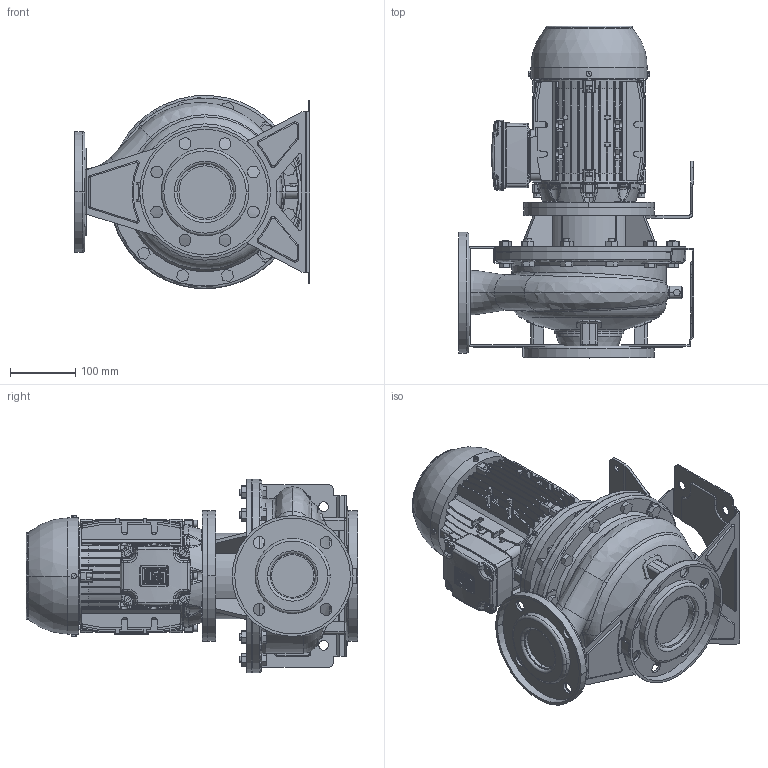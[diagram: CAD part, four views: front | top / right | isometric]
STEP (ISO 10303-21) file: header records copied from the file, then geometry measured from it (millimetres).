
FILE_DESCRIPTION (( 'STEP AP214' ), '1' );
FILE_NAME ('3LS4 65-160_1.5_(90SL)_W21.STEP', '2026-10-05T01:29:01', ( '' ), ( '' ), 'SwSTEP 2.0', 'SolidWorks 2024', '' );
FILE_SCHEMA (( 'AUTOMOTIVE_DESIGN' ));
Length unit declared in the file: inch
Products named in the file (3): 3SF4_65-160_1_5; 90S_L ALIE3_W21T_B5; 3LS4 65-160_1.5_(90SL)_W21
Assembly tree (2 placements, depth 2):
  3LS4 65-160_1.5_(90SL)_W21
    3SF4_65-160_1_5
    90S_L ALIE3_W21T_B5
Bounding box: 360 x 508 x 295.54 mm (x, y, z)
Volume: 13360534.9 mm3; surface area: 1437991.7 mm2
Topology: 12 solids, 16 shells, 3177 faces, 8385 edges, 5447 vertices
Faces by surface type: plane 1883, cylinder 770, bspline 220, torus 168, cone 110, sphere 26
Entity records: 161484 total; most frequent: CARTESIAN_POINT 84396, ORIENTED_EDGE 16714, DIRECTION 14865, EDGE_CURVE 8357, VERTEX_POINT 5447, LINE 5249, VECTOR 5249, AXIS2_PLACEMENT_3D 4808
